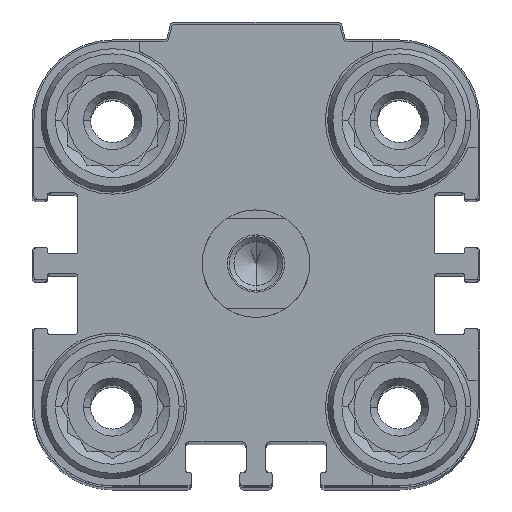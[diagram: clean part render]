
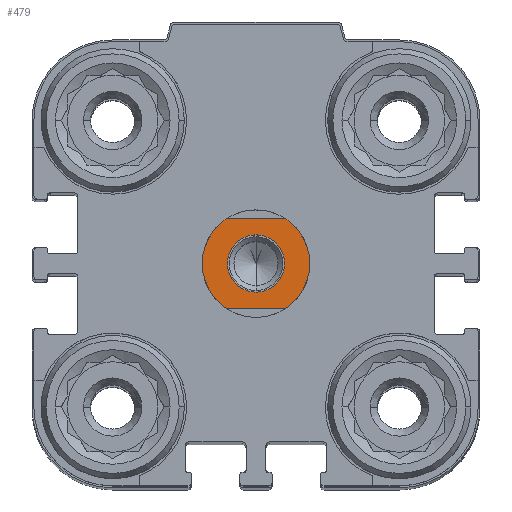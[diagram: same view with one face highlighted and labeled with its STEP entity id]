
A CAD part, top view. The second image highlights one B-rep face of the part: STEP entity #479.
In plain terms, the highlighted planar face has unit normal (0, 0, 1).
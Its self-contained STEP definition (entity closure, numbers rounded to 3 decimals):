
#271 = DIRECTION ( 'NONE',  ( 0., 0., -1. ) ) ;
#479 = ADVANCED_FACE ( 'NONE', ( #7708, #6346 ), #14706, .F. ) ;
#821 = VERTEX_POINT ( 'NONE', #11330 ) ;
#959 = EDGE_LOOP ( 'NONE', ( #4246, #12971 ) ) ;
#1348 = EDGE_CURVE ( 'NONE', #821, #21509, #15286, .T. ) ;
#2042 = CARTESIAN_POINT ( 'NONE',  ( 10., -5., 6. ) ) ;
#2281 = DIRECTION ( 'NONE',  ( -1., 0., 0. ) ) ;
#2379 = LINE ( 'NONE', #2042, #20147 ) ;
#2474 = EDGE_CURVE ( 'NONE', #5915, #9890, #17825, .T. ) ;
#2579 = LINE ( 'NONE', #11155, #19891 ) ;
#2650 = AXIS2_PLACEMENT_3D ( 'NONE', #7669, #271, #9280 ) ;
#3345 = CARTESIAN_POINT ( 'NONE',  ( 0., 0., 6. ) ) ;
#3744 = CIRCLE ( 'NONE', #16927, 6. ) ;
#3849 = CARTESIAN_POINT ( 'NONE',  ( 0., -3.2, 6. ) ) ;
#4081 = CARTESIAN_POINT ( 'NONE',  ( 0., 0., 6. ) ) ;
#4246 = ORIENTED_EDGE ( 'NONE', *, *, #2474, .T. ) ;
#4663 = ORIENTED_EDGE ( 'NONE', *, *, #22448, .F. ) ;
#5028 = AXIS2_PLACEMENT_3D ( 'NONE', #4081, #20093, #7731 ) ;
#5915 = VERTEX_POINT ( 'NONE', #16834 ) ;
#6346 = FACE_BOUND ( 'NONE', #959, .T. ) ;
#6433 = CARTESIAN_POINT ( 'NONE',  ( 0., 0., 6. ) ) ;
#6943 = ORIENTED_EDGE ( 'NONE', *, *, #13812, .F. ) ;
#7289 = EDGE_LOOP ( 'NONE', ( #4663, #20805, #20904, #6943, #20675, #9194 ) ) ;
#7425 = EDGE_CURVE ( 'NONE', #9890, #5915, #11767, .T. ) ;
#7669 = CARTESIAN_POINT ( 'NONE',  ( 0., 0., 6. ) ) ;
#7708 = FACE_OUTER_BOUND ( 'NONE', #7289, .T. ) ;
#7731 = DIRECTION ( 'NONE',  ( 0., 1., 0. ) ) ;
#7949 = DIRECTION ( 'NONE',  ( 0., 1., 0. ) ) ;
#8289 = VERTEX_POINT ( 'NONE', #19646 ) ;
#8608 = EDGE_CURVE ( 'NONE', #12454, #22124, #17251, .T. ) ;
#9194 = ORIENTED_EDGE ( 'NONE', *, *, #8608, .F. ) ;
#9280 = DIRECTION ( 'NONE',  ( 0., 1., 0. ) ) ;
#9461 = CARTESIAN_POINT ( 'NONE',  ( 6., 0., 6. ) ) ;
#9890 = VERTEX_POINT ( 'NONE', #3849 ) ;
#11155 = CARTESIAN_POINT ( 'NONE',  ( -10., 5., 6. ) ) ;
#11330 = CARTESIAN_POINT ( 'NONE',  ( -6., 0., 6. ) ) ;
#11767 = CIRCLE ( 'NONE', #2650, 3.2 ) ;
#11996 = AXIS2_PLACEMENT_3D ( 'NONE', #17049, #22185, #20582 ) ;
#12201 = CARTESIAN_POINT ( 'NONE',  ( -3.317, 5., 6. ) ) ;
#12454 = VERTEX_POINT ( 'NONE', #21824 ) ;
#12545 = AXIS2_PLACEMENT_3D ( 'NONE', #6433, #16965, #18672 ) ;
#12789 = CARTESIAN_POINT ( 'NONE',  ( 0., 0., 6. ) ) ;
#12912 = DIRECTION ( 'NONE',  ( 0., 0., -1. ) ) ;
#12971 = ORIENTED_EDGE ( 'NONE', *, *, #7425, .T. ) ;
#12988 = DIRECTION ( 'NONE',  ( 0., 0., -1. ) ) ;
#13692 = VERTEX_POINT ( 'NONE', #22606 ) ;
#13812 = EDGE_CURVE ( 'NONE', #13692, #8289, #2379, .T. ) ;
#14685 = AXIS2_PLACEMENT_3D ( 'NONE', #21665, #12988, #7949 ) ;
#14706 = PLANE ( 'NONE',  #14685 ) ;
#15096 = EDGE_CURVE ( 'NONE', #22124, #13692, #3744, .T. ) ;
#15286 = CIRCLE ( 'NONE', #11996, 6. ) ;
#15424 = AXIS2_PLACEMENT_3D ( 'NONE', #3345, #21172, #21069 ) ;
#15872 = DIRECTION ( 'NONE',  ( -1., 0., 0. ) ) ;
#16834 = CARTESIAN_POINT ( 'NONE',  ( 0., 3.2, 6. ) ) ;
#16927 = AXIS2_PLACEMENT_3D ( 'NONE', #12789, #12912, #2281 ) ;
#16965 = DIRECTION ( 'NONE',  ( 0., 0., -1. ) ) ;
#17049 = CARTESIAN_POINT ( 'NONE',  ( 0., 0., 6. ) ) ;
#17251 = CIRCLE ( 'NONE', #15424, 6. ) ;
#17825 = CIRCLE ( 'NONE', #5028, 3.2 ) ;
#18144 = DIRECTION ( 'NONE',  ( 1., 0., 0. ) ) ;
#18672 = DIRECTION ( 'NONE',  ( -1., 0., 0. ) ) ;
#19646 = CARTESIAN_POINT ( 'NONE',  ( -3.317, -5., 6. ) ) ;
#19891 = VECTOR ( 'NONE', #18144, 1000. ) ;
#20093 = DIRECTION ( 'NONE',  ( 0., 0., -1. ) ) ;
#20147 = VECTOR ( 'NONE', #15872, 1000. ) ;
#20582 = DIRECTION ( 'NONE',  ( -1., 0., 0. ) ) ;
#20675 = ORIENTED_EDGE ( 'NONE', *, *, #15096, .F. ) ;
#20805 = ORIENTED_EDGE ( 'NONE', *, *, #1348, .F. ) ;
#20904 = ORIENTED_EDGE ( 'NONE', *, *, #21738, .F. ) ;
#21069 = DIRECTION ( 'NONE',  ( -1., 0., 0. ) ) ;
#21172 = DIRECTION ( 'NONE',  ( 0., 0., -1. ) ) ;
#21509 = VERTEX_POINT ( 'NONE', #12201 ) ;
#21665 = CARTESIAN_POINT ( 'NONE',  ( 0., 0., 6. ) ) ;
#21738 = EDGE_CURVE ( 'NONE', #8289, #821, #22397, .T. ) ;
#21824 = CARTESIAN_POINT ( 'NONE',  ( 3.317, 5., 6. ) ) ;
#22124 = VERTEX_POINT ( 'NONE', #9461 ) ;
#22185 = DIRECTION ( 'NONE',  ( 0., 0., -1. ) ) ;
#22397 = CIRCLE ( 'NONE', #12545, 6. ) ;
#22448 = EDGE_CURVE ( 'NONE', #21509, #12454, #2579, .T. ) ;
#22606 = CARTESIAN_POINT ( 'NONE',  ( 3.317, -5., 6. ) ) ;
